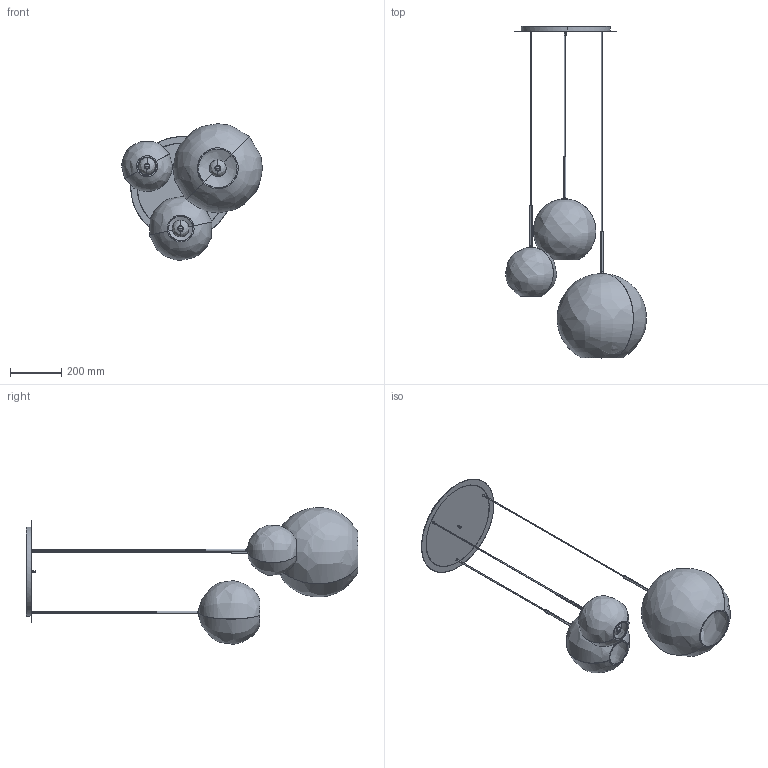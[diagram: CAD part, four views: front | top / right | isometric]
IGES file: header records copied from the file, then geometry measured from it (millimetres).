
Start section: SolidWorks IGES file using NURBS representation for surfaces
Global section: file name: Z:\Modele 3D_WWW\_KOLEKCJE_WWW\SPHERE\SPHERE-III-7788\SPHERE-III-7788.IGS; native system: SolidWorks 2021; preprocessor: SolidWorks 2021; author: gabriela.tworek; date: 210908.111054; units: millimetre
Bounding box: 551.92 x 1299.85 x 535.28 mm (x, y, z)
Surface area: 2101578.9 mm2 (no closed solid volume)
Topology: 0 solids, 0 shells, 1352 faces, 17296 edges, 17269 vertices
Faces by surface type: bspline 1352
